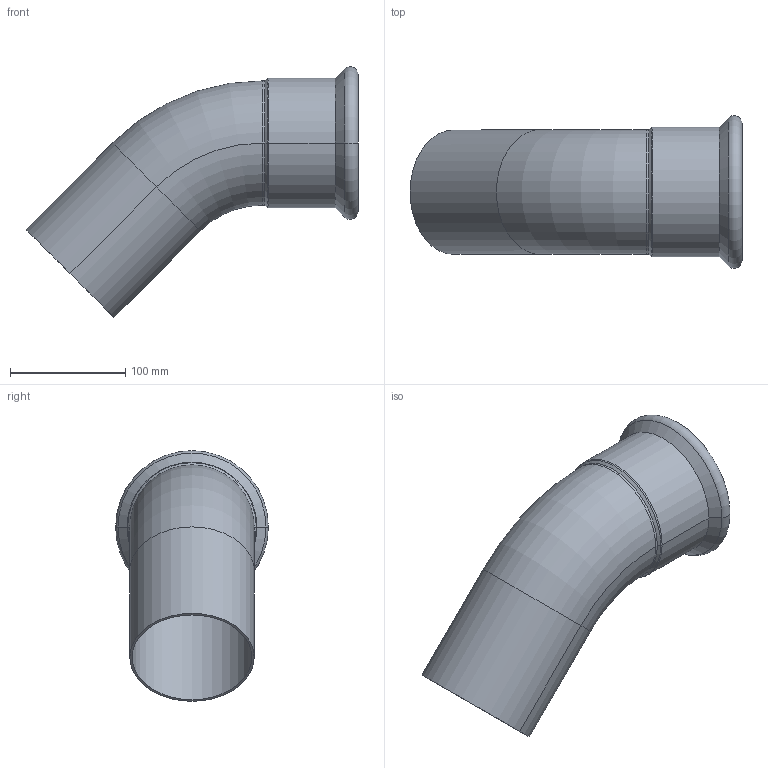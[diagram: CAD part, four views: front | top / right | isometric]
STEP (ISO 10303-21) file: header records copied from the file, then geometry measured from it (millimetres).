
FILE_DESCRIPTION(('CoCreate Modeling STEP Export'),'2;1');
FILE_NAME('C1412 108x108.stp','2014-11-11T16:46:09',(''),(''),'CoCreate Modeling STEP processor for AP214 (Solid Model)','CoCreate Modeling 17.00A 17-Jun-2010 (C) Parametric Technology GmbH','');
FILE_SCHEMA(('AUTOMOTIVE_DESIGN { 1 0 10303 214 1 1 1 1 }'));
Length unit declared in the file: millimetre
Products named in the file (2): C1412_108x108
Assembly tree (1 placements, depth 2):
  C1412_108x108
    C1412_108x108
Bounding box: 288.32 x 132.58 x 217.61 mm (x, y, z)
Volume: 250182.7 mm3; surface area: 204103.8 mm2
Topology: 1 solids, 1 shells, 30 faces, 61 edges, 35 vertices
Faces by surface type: cylinder 14, torus 8, plane 4, cone 4
Entity records: 696 total; most frequent: ORIENTED_EDGE 122, DIRECTION 110, CARTESIAN_POINT 99, EDGE_CURVE 61, AXIS2_PLACEMENT_3D 46, VERTEX_POINT 35, EDGE_LOOP 34, FACE_OUTER_BOUND 30
